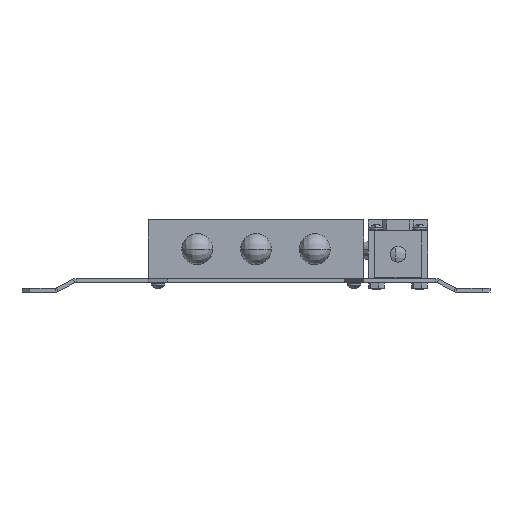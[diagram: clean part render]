
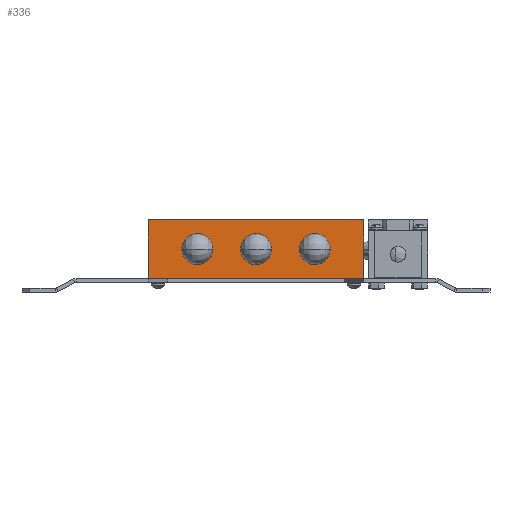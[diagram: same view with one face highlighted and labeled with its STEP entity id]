
A CAD part, front view. The second image highlights one B-rep face of the part: STEP entity #336.
In plain terms, the highlighted planar face has unit normal (0, -1, 0).
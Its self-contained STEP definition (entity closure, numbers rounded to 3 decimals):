
#88=FACE_BOUND('',#1509,.T.);
#89=FACE_BOUND('',#1510,.T.);
#90=FACE_BOUND('',#1511,.T.);
#336=ADVANCED_FACE('',(#905,#88,#89,#90),#8637,.T.);
#905=FACE_OUTER_BOUND('',#1508,.T.);
#1508=EDGE_LOOP('',(#2910,#2911,#2912,#2913));
#1509=EDGE_LOOP('',(#2914,#2915));
#1510=EDGE_LOOP('',(#2916,#2917));
#1511=EDGE_LOOP('',(#2918,#2919));
#2910=ORIENTED_EDGE('',*,*,#5237,.F.);
#2911=ORIENTED_EDGE('',*,*,#5238,.F.);
#2912=ORIENTED_EDGE('',*,*,#5239,.F.);
#2913=ORIENTED_EDGE('',*,*,#5240,.F.);
#2914=ORIENTED_EDGE('',*,*,#5222,.F.);
#2915=ORIENTED_EDGE('',*,*,#5303,.F.);
#2916=ORIENTED_EDGE('',*,*,#5301,.F.);
#2917=ORIENTED_EDGE('',*,*,#5227,.F.);
#2918=ORIENTED_EDGE('',*,*,#5305,.F.);
#2919=ORIENTED_EDGE('',*,*,#5217,.F.);
#5217=EDGE_CURVE('',#8010,#8011,#7270,.T.);
#5222=EDGE_CURVE('',#8014,#8015,#7273,.T.);
#5227=EDGE_CURVE('',#8018,#8019,#7276,.T.);
#5237=EDGE_CURVE('',#8028,#8029,#6486,.T.);
#5238=EDGE_CURVE('',#8030,#8028,#6487,.T.);
#5239=EDGE_CURVE('',#8031,#8030,#6488,.T.);
#5240=EDGE_CURVE('',#8029,#8031,#6489,.T.);
#5301=EDGE_CURVE('',#8019,#8018,#7285,.T.);
#5303=EDGE_CURVE('',#8015,#8014,#7287,.T.);
#5305=EDGE_CURVE('',#8011,#8010,#7289,.T.);
#6486=B_SPLINE_CURVE_WITH_KNOTS('',1,(#15518,#15519),.UNSPECIFIED.,.F.,.F.,
(2,2),(-110.,0.),.UNSPECIFIED.);
#6487=B_SPLINE_CURVE_WITH_KNOTS('',1,(#15520,#15521),.UNSPECIFIED.,.F.,.F.,
(2,2),(0.,30.),.UNSPECIFIED.);
#6488=B_SPLINE_CURVE_WITH_KNOTS('',1,(#15522,#15523),.UNSPECIFIED.,.F.,.F.,
(2,2),(0.,110.),.UNSPECIFIED.);
#6489=B_SPLINE_CURVE_WITH_KNOTS('',1,(#15524,#15525),.UNSPECIFIED.,.F.,.F.,
(2,2),(-30.,0.),.UNSPECIFIED.);
#7270=(
BOUNDED_CURVE()
B_SPLINE_CURVE(2,(#15445,#15446,#15447,#15448,#15449),.UNSPECIFIED.,.F.,
 .F.)
B_SPLINE_CURVE_WITH_KNOTS((3,2,3),(0.,12.409,24.819),
 .UNSPECIFIED.)
CURVE()
GEOMETRIC_REPRESENTATION_ITEM()
RATIONAL_B_SPLINE_CURVE((1.,0.707,1.,0.707,1.))
REPRESENTATION_ITEM('')
);
#7273=(
BOUNDED_CURVE()
B_SPLINE_CURVE(2,(#15464,#15465,#15466,#15467,#15468),.UNSPECIFIED.,.F.,
 .F.)
B_SPLINE_CURVE_WITH_KNOTS((3,2,3),(0.,12.409,24.819),
 .UNSPECIFIED.)
CURVE()
GEOMETRIC_REPRESENTATION_ITEM()
RATIONAL_B_SPLINE_CURVE((1.,0.707,1.,0.707,1.))
REPRESENTATION_ITEM('')
);
#7276=(
BOUNDED_CURVE()
B_SPLINE_CURVE(2,(#15483,#15484,#15485,#15486,#15487),.UNSPECIFIED.,.F.,
 .F.)
B_SPLINE_CURVE_WITH_KNOTS((3,2,3),(0.,12.409,24.819),
 .UNSPECIFIED.)
CURVE()
GEOMETRIC_REPRESENTATION_ITEM()
RATIONAL_B_SPLINE_CURVE((1.,0.707,1.,0.707,1.))
REPRESENTATION_ITEM('')
);
#7285=(
BOUNDED_CURVE()
B_SPLINE_CURVE(2,(#15658,#15659,#15660,#15661,#15662),.UNSPECIFIED.,.F.,
 .F.)
B_SPLINE_CURVE_WITH_KNOTS((3,2,3),(0.,12.409,24.819),
 .UNSPECIFIED.)
CURVE()
GEOMETRIC_REPRESENTATION_ITEM()
RATIONAL_B_SPLINE_CURVE((1.,0.707,1.,0.707,1.))
REPRESENTATION_ITEM('')
);
#7287=(
BOUNDED_CURVE()
B_SPLINE_CURVE(2,(#15668,#15669,#15670,#15671,#15672),.UNSPECIFIED.,.F.,
 .F.)
B_SPLINE_CURVE_WITH_KNOTS((3,2,3),(0.,12.409,24.819),
 .UNSPECIFIED.)
CURVE()
GEOMETRIC_REPRESENTATION_ITEM()
RATIONAL_B_SPLINE_CURVE((1.,0.707,1.,0.707,1.))
REPRESENTATION_ITEM('')
);
#7289=(
BOUNDED_CURVE()
B_SPLINE_CURVE(2,(#15678,#15679,#15680,#15681,#15682),.UNSPECIFIED.,.F.,
 .F.)
B_SPLINE_CURVE_WITH_KNOTS((3,2,3),(0.,12.409,24.819),
 .UNSPECIFIED.)
CURVE()
GEOMETRIC_REPRESENTATION_ITEM()
RATIONAL_B_SPLINE_CURVE((1.,0.707,1.,0.707,1.))
REPRESENTATION_ITEM('')
);
#8010=VERTEX_POINT('',#15179);
#8011=VERTEX_POINT('',#15180);
#8014=VERTEX_POINT('',#15183);
#8015=VERTEX_POINT('',#15184);
#8018=VERTEX_POINT('',#15187);
#8019=VERTEX_POINT('',#15188);
#8028=VERTEX_POINT('',#15197);
#8029=VERTEX_POINT('',#15198);
#8030=VERTEX_POINT('',#15199);
#8031=VERTEX_POINT('',#15200);
#8637=PLANE('',#9292);
#9292=AXIS2_PLACEMENT_3D('',#14606,#9564,$);
#9564=DIRECTION('',(0.,-1.,0.));
#14606=CARTESIAN_POINT('',(66.001,0.1,35.001));
#15179=CARTESIAN_POINT('',(37.9,0.1,17.));
#15180=CARTESIAN_POINT('',(22.1,0.1,17.));
#15183=CARTESIAN_POINT('',(-22.1,0.1,17.));
#15184=CARTESIAN_POINT('',(-37.9,0.1,17.));
#15187=CARTESIAN_POINT('',(7.9,0.1,17.));
#15188=CARTESIAN_POINT('',(-7.9,0.1,17.));
#15197=CARTESIAN_POINT('',(55.,0.1,2.));
#15198=CARTESIAN_POINT('',(-55.,0.1,2.));
#15199=CARTESIAN_POINT('',(55.,0.1,32.));
#15200=CARTESIAN_POINT('',(-55.,0.1,32.));
#15445=CARTESIAN_POINT('',(37.9,0.1,17.));
#15446=CARTESIAN_POINT('',(37.9,0.1,24.9));
#15447=CARTESIAN_POINT('',(30.,0.1,24.9));
#15448=CARTESIAN_POINT('',(22.1,0.1,24.9));
#15449=CARTESIAN_POINT('',(22.1,0.1,17.));
#15464=CARTESIAN_POINT('',(-22.1,0.1,17.));
#15465=CARTESIAN_POINT('',(-22.1,0.1,24.9));
#15466=CARTESIAN_POINT('',(-30.,0.1,24.9));
#15467=CARTESIAN_POINT('',(-37.9,0.1,24.9));
#15468=CARTESIAN_POINT('',(-37.9,0.1,17.));
#15483=CARTESIAN_POINT('',(7.9,0.1,17.));
#15484=CARTESIAN_POINT('',(7.9,0.1,24.9));
#15485=CARTESIAN_POINT('',(0.,0.1,24.9));
#15486=CARTESIAN_POINT('',(-7.9,0.1,24.9));
#15487=CARTESIAN_POINT('',(-7.9,0.1,17.));
#15518=CARTESIAN_POINT('',(55.,0.1,2.));
#15519=CARTESIAN_POINT('',(-55.,0.1,2.));
#15520=CARTESIAN_POINT('',(55.,0.1,32.));
#15521=CARTESIAN_POINT('',(55.,0.1,2.));
#15522=CARTESIAN_POINT('',(-55.,0.1,32.));
#15523=CARTESIAN_POINT('',(55.,0.1,32.));
#15524=CARTESIAN_POINT('',(-55.,0.1,2.));
#15525=CARTESIAN_POINT('',(-55.,0.1,32.));
#15658=CARTESIAN_POINT('',(-7.9,0.1,17.));
#15659=CARTESIAN_POINT('',(-7.9,0.1,9.1));
#15660=CARTESIAN_POINT('',(0.,0.1,9.1));
#15661=CARTESIAN_POINT('',(7.9,0.1,9.1));
#15662=CARTESIAN_POINT('',(7.9,0.1,17.));
#15668=CARTESIAN_POINT('',(-37.9,0.1,17.));
#15669=CARTESIAN_POINT('',(-37.9,0.1,9.1));
#15670=CARTESIAN_POINT('',(-30.,0.1,9.1));
#15671=CARTESIAN_POINT('',(-22.1,0.1,9.1));
#15672=CARTESIAN_POINT('',(-22.1,0.1,17.));
#15678=CARTESIAN_POINT('',(22.1,0.1,17.));
#15679=CARTESIAN_POINT('',(22.1,0.1,9.1));
#15680=CARTESIAN_POINT('',(30.,0.1,9.1));
#15681=CARTESIAN_POINT('',(37.9,0.1,9.1));
#15682=CARTESIAN_POINT('',(37.9,0.1,17.));
